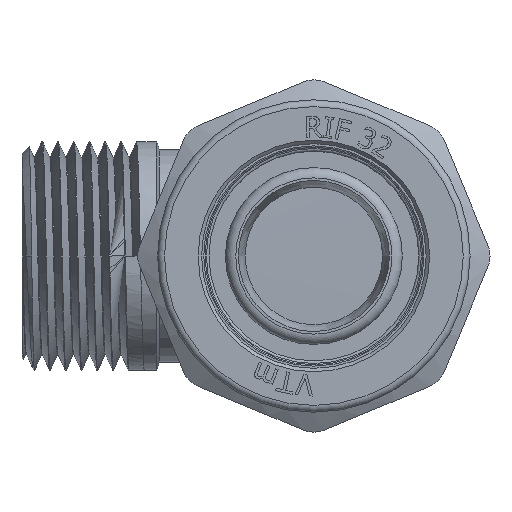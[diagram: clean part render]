
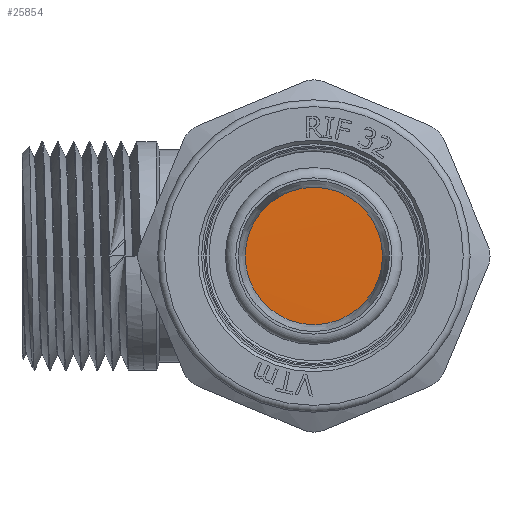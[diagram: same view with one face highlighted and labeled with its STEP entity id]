
A CAD part, left-side view. The second image highlights one B-rep face of the part: STEP entity #25854.
In plain terms, the highlighted cylindrical face has radius 21 mm (diameter 42 mm), a full revolution.
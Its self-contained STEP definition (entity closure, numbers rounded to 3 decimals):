
#2027=FACE_OUTER_BOUND('',#3487,.T.);
#3487=EDGE_LOOP('',(#17401,#17402,#17403));
#5079=B_SPLINE_CURVE_WITH_KNOTS('',3,(#34245,#34246,#34247,#34248,#34249,
#34250,#34251,#34252,#34253,#34254,#34255,#34256,#34257,#34258,#34259,#34260,
#34261),.UNSPECIFIED.,.F.,.F.,(4,1,1,1,1,1,1,1,1,1,1,1,1,1,4),(37.699,
37.812,38.309,38.807,39.304,39.801,
40.298,40.795,41.292,41.789,42.286,
42.783,43.28,43.777,43.982),
 .UNSPECIFIED.);
#6789=LINE('',#33037,#8578);
#6809=LINE('',#34244,#8598);
#8578=VECTOR('',#28615,21.);
#8598=VECTOR('',#28685,21.);
#10370=VERTEX_POINT('',#33035);
#10371=VERTEX_POINT('',#33036);
#10415=VERTEX_POINT('',#34243);
#13168=EDGE_CURVE('',#10370,#10371,#6789,.T.);
#13230=EDGE_CURVE('',#10415,#10371,#6809,.T.);
#13231=EDGE_CURVE('',#10415,#10370,#5079,.T.);
#17401=ORIENTED_EDGE('',*,*,#13168,.T.);
#17402=ORIENTED_EDGE('',*,*,#13230,.F.);
#17403=ORIENTED_EDGE('',*,*,#13231,.T.);
#25645=CYLINDRICAL_SURFACE('',#27340,21.);
#25854=ADVANCED_FACE('',(#2027),#25645,.T.);
#27340=AXIS2_PLACEMENT_3D('',#34242,#28683,#28684);
#28615=DIRECTION('',(-1.,0.,0.));
#28683=DIRECTION('center_axis',(-1.,0.,0.));
#28684=DIRECTION('ref_axis',(0.,-1.,0.));
#28685=DIRECTION('',(1.,0.,0.));
#33035=CARTESIAN_POINT('',(-25.5,21.,0.));
#33036=CARTESIAN_POINT('',(-26.9,21.,0.));
#33037=CARTESIAN_POINT('',(-29.626,21.,0.));
#34242=CARTESIAN_POINT('Origin',(-29.626,0.,0.));
#34243=CARTESIAN_POINT('',(-27.,21.,0.));
#34244=CARTESIAN_POINT('',(-29.626,21.,0.));
#34245=CARTESIAN_POINT('Ctrl Pts',(-27.,21.,0.001));
#34246=CARTESIAN_POINT('Ctrl Pts',(-26.991,21.001,0.794));
#34247=CARTESIAN_POINT('Ctrl Pts',(-26.942,20.763,5.065));
#34248=CARTESIAN_POINT('Ctrl Pts',(-26.854,17.933,12.543));
#34249=CARTESIAN_POINT('Ctrl Pts',(-26.736,9.782,19.577));
#34250=CARTESIAN_POINT('Ctrl Pts',(-26.617,-0.737,
21.872));
#34251=CARTESIAN_POINT('Ctrl Pts',(-26.498,-11.077,
18.874));
#34252=CARTESIAN_POINT('Ctrl Pts',(-26.38,-18.737,
11.308));
#34253=CARTESIAN_POINT('Ctrl Pts',(-26.261,-21.861,
1.005));
#34254=CARTESIAN_POINT('Ctrl Pts',(-26.142,-19.695,
-9.541));
#34255=CARTESIAN_POINT('Ctrl Pts',(-26.024,-12.762,
-17.778));
#34256=CARTESIAN_POINT('Ctrl Pts',(-25.905,-2.74,
-21.712));
#34257=CARTESIAN_POINT('Ctrl Pts',(-25.786,7.945,-20.392));
#34258=CARTESIAN_POINT('Ctrl Pts',(-25.668,16.707,-14.136));
#34259=CARTESIAN_POINT('Ctrl Pts',(-25.572,20.502,-6.353));
#34260=CARTESIAN_POINT('Ctrl Pts',(-25.516,20.999,-1.437));
#34261=CARTESIAN_POINT('Ctrl Pts',(-25.5,20.998,0.));
